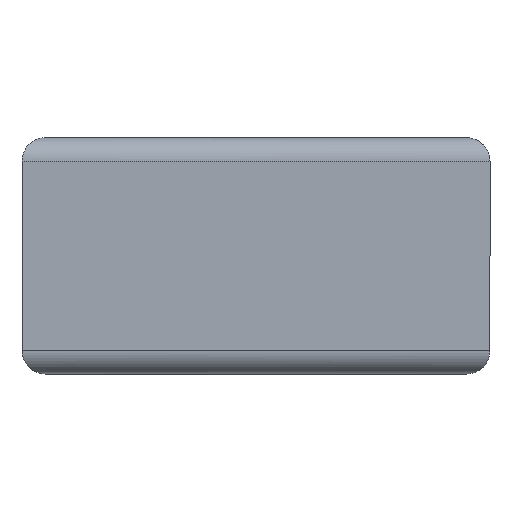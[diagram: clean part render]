
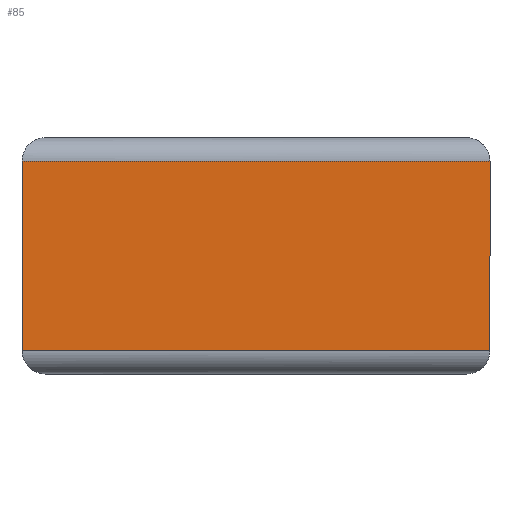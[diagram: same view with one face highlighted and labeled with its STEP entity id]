
A CAD part, top view. The second image highlights one B-rep face of the part: STEP entity #85.
In plain terms, the highlighted planar face has unit normal (0, 0, 1).
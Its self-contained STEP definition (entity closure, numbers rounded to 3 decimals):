
#39 = EDGE_CURVE ( 'NONE', #233, #492, #501, .T. ) ;
#41 = CARTESIAN_POINT ( 'NONE',  ( 40., 30., 29.698 ) ) ;
#72 = CARTESIAN_POINT ( 'NONE',  ( -29.698, 146.818, 29.698 ) ) ;
#85 = ADVANCED_FACE ( 'NONE', ( #291 ), #458, .F. ) ;
#121 = LINE ( 'NONE', #288, #162 ) ;
#122 = CARTESIAN_POINT ( 'NONE',  ( 29.698, 27., 29.698 ) ) ;
#139 = DIRECTION ( 'NONE',  ( 0., 1., 0. ) ) ;
#146 = LINE ( 'NONE', #72, #251 ) ;
#156 = EDGE_LOOP ( 'NONE', ( #276, #482, #186, #448 ) ) ;
#162 = VECTOR ( 'NONE', #278, 1000. ) ;
#168 = VERTEX_POINT ( 'NONE', #325 ) ;
#186 = ORIENTED_EDGE ( 'NONE', *, *, #415, .T. ) ;
#228 = CARTESIAN_POINT ( 'NONE',  ( 29.698, 3., 29.698 ) ) ;
#233 = VERTEX_POINT ( 'NONE', #122 ) ;
#251 = VECTOR ( 'NONE', #311, 1000. ) ;
#270 = LINE ( 'NONE', #518, #301 ) ;
#276 = ORIENTED_EDGE ( 'NONE', *, *, #39, .F. ) ;
#277 = DIRECTION ( 'NONE',  ( 0., 0., -1. ) ) ;
#278 = DIRECTION ( 'NONE',  ( 1., 0., 0. ) ) ;
#279 = AXIS2_PLACEMENT_3D ( 'NONE', #41, #277, #139 ) ;
#288 = CARTESIAN_POINT ( 'NONE',  ( 40., 3., 29.698 ) ) ;
#291 = FACE_OUTER_BOUND ( 'NONE', #156, .T. ) ;
#297 = CARTESIAN_POINT ( 'NONE',  ( 29.698, 146.818, 29.698 ) ) ;
#301 = VECTOR ( 'NONE', #476, 1000. ) ;
#311 = DIRECTION ( 'NONE',  ( 0., -1., 0. ) ) ;
#325 = CARTESIAN_POINT ( 'NONE',  ( -29.698, 27., 29.698 ) ) ;
#337 = VERTEX_POINT ( 'NONE', #353 ) ;
#353 = CARTESIAN_POINT ( 'NONE',  ( -29.698, 3., 29.698 ) ) ;
#415 = EDGE_CURVE ( 'NONE', #168, #337, #146, .T. ) ;
#427 = DIRECTION ( 'NONE',  ( 0., -1., 0. ) ) ;
#432 = EDGE_CURVE ( 'NONE', #233, #168, #270, .T. ) ;
#448 = ORIENTED_EDGE ( 'NONE', *, *, #524, .T. ) ;
#458 = PLANE ( 'NONE',  #279 ) ;
#476 = DIRECTION ( 'NONE',  ( -1., 0., 0. ) ) ;
#482 = ORIENTED_EDGE ( 'NONE', *, *, #432, .T. ) ;
#492 = VERTEX_POINT ( 'NONE', #228 ) ;
#501 = LINE ( 'NONE', #297, #513 ) ;
#513 = VECTOR ( 'NONE', #427, 1000. ) ;
#518 = CARTESIAN_POINT ( 'NONE',  ( 40., 27., 29.698 ) ) ;
#524 = EDGE_CURVE ( 'NONE', #337, #492, #121, .T. ) ;
